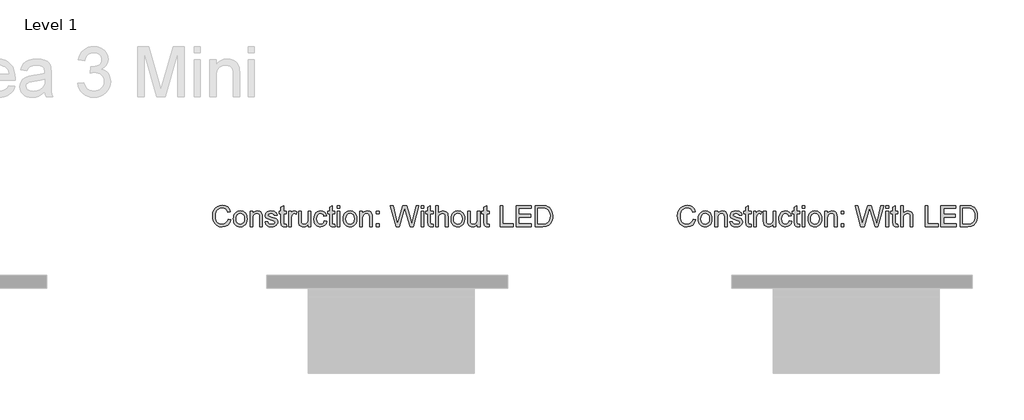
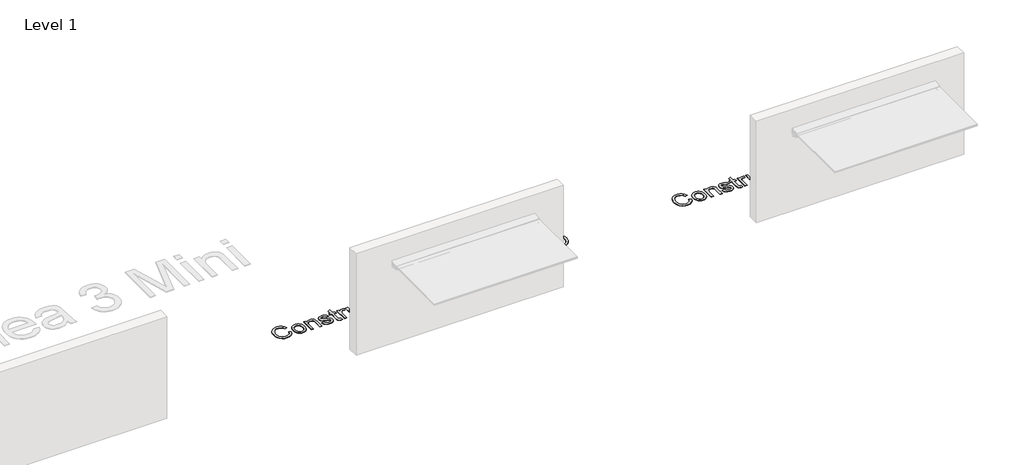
# One storey, part 6 of 6: 2 proxies.
"""IFC4 building model written with IfcOpenShell, lengths in millimetres."""

import ifcopenshell
import ifcopenshell.guid

model = None  # the IFC model being written
_history = None  # IfcOwnerHistory: only IFC2X3 demands one
_inside = {}  # id of a spatial element -> (the spatial element, [elements in it])
_under = {}  # id of a project, library or spatial element -> (it, [spatial elements below it])
_declared = {}  # id of a project -> (the project, [libraries it declares])
_typed = {}  # id of a type object -> (the type object, [elements of that type])
_made_of = {}  # id of a material, layer set ... -> (it, [elements and type objects made of it])


def new_model(schema):
    """Start an empty IFC model of exactly this schema.

    Asked for "IFC4X3", IfcOpenShell would pick the latest addendum, in which some entities
    have other attributes; the version numbers below select the first issue.
    IFC2X3 requires an IfcOwnerHistory on every rooted entity: one is made here for all.
    """
    global model, _history
    if schema == "IFC4X3":
        model = ifcopenshell.file(schema_version=(4, 3, 0, 0))
    else:
        model = ifcopenshell.file(schema=schema)
    _inside.clear()
    _under.clear()
    _declared.clear()
    _typed.clear()
    _made_of.clear()
    _history = None
    if model.schema == "IFC2X3":
        org = make("IfcOrganization", Name="unknown")
        user = make(
            "IfcPersonAndOrganization",
            ThePerson=make("IfcPerson", FamilyName="unknown"),
            TheOrganization=org,
        )
        app = make(
            "IfcApplication",
            ApplicationDeveloper=org,
            Version="unknown",
            ApplicationFullName="unknown",
            ApplicationIdentifier="unknown",
        )
        _history = make(
            "IfcOwnerHistory",
            OwningUser=user,
            OwningApplication=app,
            ChangeAction="ADDED",
            CreationDate=0,
        )
    return model


def make(cls, **values):
    """One entity of the class cls with the attributes given. An attribute that is None is left unset."""
    return model.create_entity(
        cls, **{name: value for name, value in values.items() if value is not None}
    )


def rooted(cls, **values):
    """An entity with a GlobalId (a new one), such as an element, a storey or a relation."""
    return make(cls, GlobalId=ifcopenshell.guid.new(), OwnerHistory=_history, **values)


def si_unit(unit_type, name, prefix=None):
    """IfcSIUnit, for example si_unit("LENGTHUNIT", "METRE", prefix="MILLI")."""
    return make("IfcSIUnit", UnitType=unit_type, Prefix=prefix, Name=name)


def assignment(units):
    """IfcUnitAssignment: the units of a project."""
    return None if units is None else make("IfcUnitAssignment", Units=units)


def point(xyz):
    """IfcCartesianPoint."""
    return None if xyz is None else make("IfcCartesianPoint", Coordinates=xyz)


def direction(xyz):
    """IfcDirection."""
    return None if xyz is None else make("IfcDirection", DirectionRatios=xyz)


def frame(location, z_axis=None, x_axis=None):
    """IfcAxis2Placement3D, a coordinate frame: its origin and axes. An axis left out is left unset."""
    return make(
        "IfcAxis2Placement3D",
        Location=point(location),
        Axis=direction(z_axis),
        RefDirection=direction(x_axis),
    )


def origin():
    """The frame at (0, 0, 0) with its axes left unset."""
    return frame((0.0, 0.0, 0.0))


def origin_with_axes():
    """The frame at (0, 0, 0) with the z axis (0, 0, 1) and the x axis (1, 0, 0) written out."""
    return frame((0.0, 0.0, 0.0), z_axis=(0.0, 0.0, 1.0), x_axis=(1.0, 0.0, 0.0))


def place(relative_to, where):
    """IfcLocalPlacement: puts the frame where relative to a parent placement (None: the world)."""
    return make(
        "IfcLocalPlacement", PlacementRelTo=relative_to, RelativePlacement=where
    )


def context(
    kind, dimensions, precision=None, world=None, true_north=None, identifier=None
):
    """IfcGeometricRepresentationContext, for example the 3D "Model" context."""
    return make(
        "IfcGeometricRepresentationContext",
        ContextIdentifier=identifier,
        ContextType=kind,
        CoordinateSpaceDimension=dimensions,
        Precision=precision,
        WorldCoordinateSystem=world,
        TrueNorth=true_north,
    )


def project(units=None, contexts=None):
    """IfcProject with its units and contexts."""
    return rooted(
        "IfcProject",
        Name="project",
        RepresentationContexts=contexts,
        UnitsInContext=assignment(units),
    )


def spatial(cls, under=None, at=None, **own):
    """A site, building, storey or space (cls), placed at a placement, below another one or the project."""
    s = rooted(cls, ObjectPlacement=at, **own)
    if under is not None:
        _under.setdefault(under.id(), (under, []))[1].append(s)
    return s


def polyline(points):
    """IfcPolyline through the points."""
    return make("IfcPolyline", Points=[point(p) for p in points])


def outline(outer, holes=None, kind="AREA"):
    """IfcArbitraryClosedProfileDef: a profile drawn as a closed curve; with holes, ...WithVoids."""
    if holes is None:
        return make("IfcArbitraryClosedProfileDef", ProfileType=kind, OuterCurve=outer)
    return make(
        "IfcArbitraryProfileDefWithVoids",
        ProfileType=kind,
        OuterCurve=outer,
        InnerCurves=holes,
    )


def extrude(swept, where, along, depth):
    """IfcExtrudedAreaSolid: the profile swept, set in the frame where, extruded along a direction by depth."""
    return make(
        "IfcExtrudedAreaSolid",
        SweptArea=swept,
        Position=where,
        ExtrudedDirection=direction(along),
        Depth=depth,
    )


def shape(context_of_items, identifier, shape_type, items):
    """IfcShapeRepresentation: the items that make up one representation, for example the "Body"."""
    return make(
        "IfcShapeRepresentation",
        ContextOfItems=context_of_items,
        RepresentationIdentifier=identifier,
        RepresentationType=shape_type,
        Items=items,
    )


def made_of(thing, what):
    """Note that an element or type object is made of a material, layer set ...; save() writes the relation."""
    if what is not None:
        _made_of.setdefault(what.id(), (what, []))[1].append(thing)
    return thing


def element(
    cls,
    number,
    at=None,
    inside=None,
    cuts=None,
    type_object=None,
    material=None,
    context=None,
    identifier="Body",
    shape_type=None,
    held_by="IfcProductDefinitionShape",
    body=None,
    shapes=None,
    **own,
):
    """One element of the class cls, such as IfcWall. Its Tag is "e" and its number.

    at: its placement. inside: the storey or other place that contains it. cuts: it is an
    opening in that element (IfcRelVoidsElement). A single representation is given by context,
    identifier, shape_type and body (its items); several are given by shapes. held_by: the class
    of the entity that holds the representations. save() writes the other relations.
    """
    e = rooted(cls, Tag="e%d" % number, ObjectPlacement=at, **own)
    if body is not None:
        shapes = [shape(context, identifier, shape_type, body)]
    if shapes is not None:
        e.Representation = make(held_by, Representations=shapes)
    if inside is not None:
        _inside.setdefault(inside.id(), (inside, []))[1].append(e)
    if cuts is not None:
        rooted(
            "IfcRelVoidsElement", RelatingBuildingElement=cuts, RelatedOpeningElement=e
        )
    if type_object is not None:
        _typed.setdefault(type_object.id(), (type_object, []))[1].append(e)
    return made_of(e, material)


def aggregate(whole, parts):
    """IfcRelAggregates: a whole, such as a stair, and the parts it consists of."""
    return rooted("IfcRelAggregates", RelatingObject=whole, RelatedObjects=parts)


def save(model, path):
    """Write the relations noted so far, then the file.

    IfcRelAggregates (storeys below a building ...), IfcRelContainedInSpatialStructure (elements
    in a storey), IfcRelDefinesByType, IfcRelAssociatesMaterial and IfcRelDeclares: one each for
    every whole, place, type object, material and project.
    """
    for whole, parts in _under.values():
        aggregate(whole, parts)
    for where, things in _inside.values():
        rooted(
            "IfcRelContainedInSpatialStructure",
            RelatedElements=things,
            RelatingStructure=where,
        )
    for kind, things in _typed.values():
        rooted("IfcRelDefinesByType", RelatedObjects=things, RelatingType=kind)
    for what, things in _made_of.values():
        rooted("IfcRelAssociatesMaterial", RelatedObjects=things, RelatingMaterial=what)
    for by, libraries in _declared.values():
        rooted("IfcRelDeclares", RelatingContext=by, RelatedDefinitions=libraries)
    model.write(path)


model = new_model("IFC4")

# Units and contexts
model_context = context("Model", 3, world=origin())
ifc_project = project(units=[si_unit("LENGTHUNIT", "METRE", prefix="MILLI")], contexts=[model_context])

# Site, building, storey
site = spatial("IfcSite", under=ifc_project)
building = spatial("IfcBuilding", under=site)
storey = spatial("IfcBuildingStorey", under=building, Name="Level 1", Elevation=0.0)

# Proxies
placement = place(None, origin())
element("IfcBuildingElementProxy", 1, Name="600mm Arial 2", ObjectType="600mm Arial 2", at=placement, inside=storey, context=model_context, shape_type="SweptSolid", body=[
    extrude(outline(polyline([(15617.5005788, 1388.7827589), (15648.8931757, 1380.689355), (15634.4078221, 1344.1080891), (15611.6757805, 1317.382995), (15581.8160252, 1301.0352389), (15545.9475307, 1295.5859868), (15509.5348774, 1299.7093308), (15480.6178197, 1312.0793629), (15458.4529295, 1332.2668874), (15442.2967786, 1359.8427086), (15432.4329426, 1392.2623095), (15429.1449972, 1426.9811728), (15432.8621382, 1463.6007597), (15444.0135612, 1495.2232829), (15462.0167864, 1520.844731), (15486.2893338, 1539.4610928), (15515.0761, 1550.7964568), (15546.621981, 1554.5749114), (15581.0419402, 1549.6851466), (15609.4991454, 1535.015852), (15631.1045484, 1511.4714043), (15644.9691011, 1479.9561801), (15613.5765042, 1472.4759128), (15602.6933285, 1495.3689028), (15587.8247645, 1511.0728655), (15568.7868713, 1520.1549522), (15545.3957077, 1523.1823145), (15518.4330232, 1519.8253913), (15496.2834614, 1509.7546217), (15479.4758527, 1494.0276664), (15468.5390276, 1473.7021861), (15462.5379525, 1450.7248899), (15460.5375942, 1427.0424864), (15462.9058345, 1398.0411225), (15470.0105555, 1372.9638331), (15482.1200046, 1352.7686444), (15499.5024288, 1338.4135824), (15520.341411, 1329.8373334), (15542.8205338, 1326.9785837), (15569.0244617, 1330.8720015), (15590.859791, 1342.5522549), (15607.3455029, 1361.8967164), (15617.5005788, 1388.7827589)])), origin_with_axes(), (0.0, 0.0, 1.0), 5.0),
    extrude(outline(polyline([(15680.2857726, 1391.7258149), (15681.9833947, 1415.6113198), (15687.0762611, 1436.1935511), (15695.5643717, 1453.4725085), (15707.4477266, 1467.4481922), (15732.6169864, 1482.7612803), (15762.7526532, 1487.865643), (15780.0718478, 1486.3117247), (15795.7317412, 1481.6499701), (15809.7323336, 1473.880379), (15822.0736249, 1463.0029515), (15832.1463106, 1449.3855695), (15839.3410861, 1433.396115), (15843.6579514, 1415.0345882), (15845.0969065, 1394.3009889), (15842.5523893, 1362.5864952), (15834.9188379, 1338.4442393), (15822.4185143, 1320.364372), (15805.2736805, 1306.8370445), (15784.9098792, 1298.3987512), (15762.7526532, 1295.5859868), (15745.1805398, 1297.1341569), (15729.3750264, 1301.7786671), (15715.3361129, 1309.5195174), (15703.0637995, 1320.3567078), (15693.0984127, 1334.1062974), (15685.9802793, 1350.5843451), (15681.7093993, 1369.7908509), (15680.2857726, 1391.7258149)]), holes=[polyline([(15711.6783695, 1391.7871286), (15715.3112042, 1363.3759086), (15726.2097084, 1343.1347347), (15742.611114, 1331.0176215), (15762.7526532, 1326.9785837), (15782.8022219, 1331.0406141), (15799.1729707, 1343.2267052), (15810.0714748, 1363.7361264), (15813.7043095, 1392.7681472), (15810.0484822, 1420.3516326), (15799.0810002, 1440.3168951), (15782.6872588, 1452.4340083), (15762.7526532, 1456.473046), (15742.611114, 1452.4493367), (15726.2097084, 1440.3782087), (15715.3112042, 1420.1830201), (15711.6783695, 1391.7871286)])]), origin_with_axes(), (0.0, 0.0, 1.0), 5.0),
    extrude(outline(polyline([(15880.413578, 1299.5100614), (15880.413578, 1483.9415683), (15911.8061749, 1483.9415683), (15911.8061749, 1458.1898287), (15922.7123432, 1471.1729974), (15935.8104751, 1480.4466894), (15951.1005705, 1486.0109046), (15968.5826295, 1487.865643), (15984.0566659, 1486.3711224), (15998.227787, 1481.8875605), (16010.0459961, 1474.9744447), (16018.4612967, 1466.1912621), (16027.8729444, 1443.1066669), (16029.5284134, 1412.7564023), (16029.5284134, 1299.5100614), (15998.1358165, 1299.5100614), (15998.1358165, 1408.5257593), (15994.5183102, 1436.30085), (15989.5135822, 1444.5705307), (15981.7344108, 1450.9854729), (15960.1826573, 1456.473046), (15941.7962217, 1453.3920343), (15926.1229159, 1444.1489992), (15915.3853602, 1426.291394), (15911.8061749, 1397.3666721), (15911.8061749, 1299.5100614), (15880.413578, 1299.5100614)])), origin_with_axes(), (0.0, 0.0, 1.0), 5.0),
    extrude(outline(polyline([(16060.9210103, 1354.447106), (16092.3136072, 1358.3711807), (16097.2646857, 1344.9434878), (16106.844946, 1335.0719876), (16121.1157018, 1329.0019347), (16140.1382666, 1326.9785837), (16158.9309052, 1328.8333221), (16172.1440002, 1334.3975373), (16179.9614926, 1342.4602844), (16182.5673234, 1351.8106184), (16179.9461642, 1359.8120518), (16172.0826865, 1365.9127616), (16139.7703846, 1374.8645568), (16092.4975482, 1390.2236301), (16080.5337192, 1397.9414878), (16071.8654997, 1408.1578773), (16066.6001886, 1420.2213411), (16064.8450849, 1433.4804213), (16070.4859422, 1456.8715849), (16085.8756723, 1474.7445185), (16105.8332705, 1484.0335388), (16132.8419404, 1487.865643), (16153.2747195, 1486.3251371), (16171.0403542, 1481.7036195), (16185.3264383, 1474.4532786), (16195.3205659, 1465.0263024), (16201.9424418, 1452.7252482), (16206.1117711, 1436.852673), (16174.7191741, 1432.9285983), (16170.7567785, 1442.8077628), (16162.9162935, 1450.249709), (16151.121077, 1454.9172118), (16135.294487, 1456.473046), (16117.2682692, 1454.9861896), (16105.2507907, 1450.5256204), (16098.4909591, 1444.0876855), (16096.2376818, 1436.668732), (16099.9778155, 1427.5329957), (16111.6887256, 1420.6045515), (16138.7280523, 1413.9213619), (16184.8052722, 1399.1447685), (16196.9760348, 1392.0783685), (16206.2037416, 1382.4061377), (16212.0208756, 1370.0974193), (16213.9599203, 1355.1215564), (16211.6836504, 1339.6398557), (16204.8548409, 1325.0778601), (16193.7340748, 1312.5775365), (16178.5819351, 1303.2808519), (16160.2798058, 1297.5097031), (16139.7090709, 1295.5859868), (16108.0558909, 1299.2954636), (16084.9559673, 1310.423894), (16069.5355804, 1328.8486505), (16060.9210103, 1354.447106)])), origin_with_axes(), (0.0, 0.0, 1.0), 5.0),
    extrude(outline(polyline([(16315.9858603, 1325.6909968), (16319.9099349, 1298.5903564), (16296.4268009, 1295.5859868), (16281.3589675, 1296.8889022), (16270.1232382, 1300.7976484), (16257.0021137, 1314.4705959), (16253.2006664, 1350.0938358), (16253.2006664, 1452.5489714), (16229.6562188, 1452.5489714), (16229.6562188, 1483.9415683), (16253.2006664, 1483.9415683), (16253.2006664, 1528.7618581), (16284.5932634, 1547.2172715), (16284.5932634, 1483.9415683), (16315.9858603, 1483.9415683), (16315.9858603, 1452.5489714), (16284.5932634, 1452.5489714), (16284.5932634, 1351.0135408), (16286.2487323, 1334.826733), (16291.6136781, 1329.0939052), (16302.3129128, 1326.9785837), (16315.9858603, 1325.6909968)])), origin_with_axes(), (0.0, 0.0, 1.0), 5.0),
    extrude(outline(polyline([(16347.3784572, 1299.5100614), (16347.3784572, 1483.9415683), (16374.8469795, 1483.9415683), (16374.8469795, 1456.656987), (16384.9943912, 1472.4759128), (16394.3447253, 1481.79559), (16413.9650983, 1487.865643), (16429.6000831, 1485.4437532), (16445.4803226, 1478.1780838), (16434.9956857, 1450.0351111), (16412.922766, 1456.473046), (16403.5494393, 1454.924876), (16395.1724598, 1450.2803658), (16383.8600884, 1433.1125393), (16378.7710541, 1396.4469672), (16378.7710541, 1299.5100614), (16347.3784572, 1299.5100614)])), origin_with_axes(), (0.0, 0.0, 1.0), 5.0),
    extrude(outline(polyline([(16582.8229341, 1299.5100614), (16582.8229341, 1331.2092267), (16571.4645775, 1315.6240592), (16558.2361541, 1304.4917968), (16543.1376639, 1297.8124393), (16526.1691069, 1295.5859868), (16510.8790114, 1297.1494853), (16496.6465768, 1301.8399807), (16484.7057403, 1308.8910523), (16476.2904397, 1317.5362792), (16466.9401056, 1340.6515312), (16465.1006957, 1369.8368362), (16465.1006957, 1483.9415683), (16496.4932926, 1483.9415683), (16496.4932926, 1384.6134296), (16498.3940162, 1352.6076961), (16502.9695485, 1341.931454), (16510.8100336, 1333.8150575), (16521.3943051, 1328.6877022), (16534.2011971, 1326.9785837), (16547.743853, 1328.7260232), (16560.4127893, 1333.9683416), (16570.8591051, 1342.2226939), (16577.7338999, 1353.0062349), (16581.5506756, 1367.7751642), (16582.8229341, 1387.9856813), (16582.8229341, 1483.9415683), (16614.215531, 1483.9415683), (16614.215531, 1299.5100614), (16582.8229341, 1299.5100614)])), origin_with_axes(), (0.0, 0.0, 1.0), 5.0),
    extrude(outline(polyline([(16775.1025903, 1366.2193299), (16806.4951872, 1362.2952553), (16797.7426614, 1334.3745447), (16781.2952705, 1313.2749794), (16758.7011847, 1300.008235), (16731.5085738, 1295.5859868), (16713.9019715, 1297.1284087), (16698.1156186, 1301.7556744), (16684.1495151, 1309.467784), (16672.0036611, 1320.2647373), (16662.172398, 1333.943433), (16655.1500672, 1350.3007694), (16649.5322026, 1391.0513646), (16651.9310998, 1418.9874036), (16659.1277913, 1443.1986374), (16671.2372403, 1462.7500326), (16688.3744099, 1476.7065558), (16708.8761669, 1485.0758712), (16731.0793782, 1487.865643), (16757.6052029, 1484.0335388), (16778.8120671, 1472.5372265), (16794.0255204, 1453.9898426), (16802.5711126, 1429.0045237), (16771.1785157, 1425.0804491), (16765.4840089, 1438.7763892), (16756.61652, 1448.59424), (16745.0665582, 1454.5033445), (16731.3246328, 1456.473046), (16711.0374737, 1452.5949567), (16694.9349722, 1440.9606886), (16684.4273427, 1420.9417767), (16680.9247995, 1391.9097559), (16684.3507006, 1362.4868605), (16694.6284038, 1342.3989707), (16710.4396654, 1330.8336805), (16730.4662415, 1326.9785837), (16746.7220272, 1329.3851451), (16760.0500853, 1336.6048293), (16769.7453087, 1348.8215772), (16775.1025903, 1366.2193299)])), origin_with_axes(), (0.0, 0.0, 1.0), 5.0),
    extrude(outline(polyline([(16900.672978, 1325.6909968), (16904.5970526, 1298.5903564), (16881.1139185, 1295.5859868), (16866.0460852, 1296.8889022), (16854.8103559, 1300.7976484), (16841.6892314, 1314.4705959), (16837.8877841, 1350.0938358), (16837.8877841, 1452.5489714), (16814.3433364, 1452.5489714), (16814.3433364, 1483.9415683), (16837.8877841, 1483.9415683), (16837.8877841, 1528.7618581), (16869.280381, 1547.2172715), (16869.280381, 1483.9415683), (16900.672978, 1483.9415683), (16900.672978, 1452.5489714), (16869.280381, 1452.5489714), (16869.280381, 1351.0135408), (16870.93585, 1334.826733), (16876.3007958, 1329.0939052), (16887.0000305, 1326.9785837), (16900.672978, 1325.6909968)])), origin_with_axes(), (0.0, 0.0, 1.0), 5.0),
    extrude(outline(polyline([(16932.0655749, 1519.2582399), (16932.0655749, 1550.6508368), (16963.4581718, 1550.6508368), (16963.4581718, 1519.2582399), (16932.0655749, 1519.2582399)])), origin_with_axes(), (0.0, 0.0, 1.0), 5.0),
    extrude(outline(polyline([(16932.0655749, 1299.5100614), (16932.0655749, 1483.9415683), (16963.4581718, 1483.9415683), (16963.4581718, 1299.5100614), (16932.0655749, 1299.5100614)])), origin_with_axes(), (0.0, 0.0, 1.0), 5.0),
    extrude(outline(polyline([(17002.698918, 1391.7258149), (17004.3965401, 1415.6113198), (17009.4894064, 1436.1935511), (17017.9775171, 1453.4725085), (17029.8608719, 1467.4481922), (17055.0301318, 1482.7612803), (17085.1657985, 1487.865643), (17102.4849931, 1486.3117247), (17118.1448866, 1481.6499701), (17132.145479, 1473.880379), (17144.4867703, 1463.0029515), (17154.5594559, 1449.3855695), (17161.7542314, 1433.396115), (17166.0710967, 1415.0345882), (17167.5100518, 1394.3009889), (17164.9655347, 1362.5864952), (17157.3319833, 1338.4442393), (17144.8316596, 1320.364372), (17127.6868258, 1306.8370445), (17107.3230245, 1298.3987512), (17085.1657985, 1295.5859868), (17067.5936851, 1297.1341569), (17051.7881717, 1301.7786671), (17037.7492583, 1309.5195174), (17025.4769448, 1320.3567078), (17015.5115581, 1334.1062974), (17008.3934247, 1350.5843451), (17004.1225446, 1369.7908509), (17002.698918, 1391.7258149)]), holes=[polyline([(17034.0915149, 1391.7871286), (17037.7243496, 1363.3759086), (17048.6228537, 1343.1347347), (17065.0242593, 1331.0176215), (17085.1657985, 1326.9785837), (17105.2153673, 1331.0406141), (17121.5861161, 1343.2267052), (17132.4846202, 1363.7361264), (17136.1174549, 1392.7681472), (17132.4616275, 1420.3516326), (17121.4941456, 1440.3168951), (17105.1004042, 1452.4340083), (17085.1657985, 1456.473046), (17065.0242593, 1452.4493367), (17048.6228537, 1440.3782087), (17037.7243496, 1420.1830201), (17034.0915149, 1391.7871286)])]), origin_with_axes(), (0.0, 0.0, 1.0), 5.0),
    extrude(outline(polyline([(17202.8267233, 1299.5100614), (17202.8267233, 1483.9415683), (17234.2193203, 1483.9415683), (17234.2193203, 1458.1898287), (17245.1254886, 1471.1729974), (17258.2236204, 1480.4466894), (17273.5137159, 1486.0109046), (17290.9957748, 1487.865643), (17306.4698113, 1486.3711224), (17320.6409323, 1481.8875605), (17332.4591414, 1474.9744447), (17340.874442, 1466.1912621), (17350.2860897, 1443.1066669), (17351.9415587, 1412.7564023), (17351.9415587, 1299.5100614), (17320.5489618, 1299.5100614), (17320.5489618, 1408.5257593), (17316.9314555, 1436.30085), (17311.9267275, 1444.5705307), (17304.1475562, 1450.9854729), (17282.5958026, 1456.473046), (17264.2093671, 1453.3920343), (17248.5360612, 1444.1489992), (17237.7985055, 1426.291394), (17234.2193203, 1397.3666721), (17234.2193203, 1299.5100614), (17202.8267233, 1299.5100614)])), origin_with_axes(), (0.0, 0.0, 1.0), 5.0),
    extrude(outline(polyline([(17402.9545287, 1299.5100614), (17402.9545287, 1330.9026584), (17434.3471256, 1330.9026584), (17434.3471256, 1299.5100614), (17402.9545287, 1299.5100614)])), origin_with_axes(), (0.0, 0.0, 1.0), 5.0),
    extrude(outline(polyline([(17402.9545287, 1452.5489714), (17402.9545287, 1483.9415683), (17434.3471256, 1483.9415683), (17434.3471256, 1452.5489714), (17402.9545287, 1452.5489714)])), origin_with_axes(), (0.0, 0.0, 1.0), 5.0),
    extrude(outline(polyline([(17640.1771019, 1299.5100614), (17571.6897372, 1550.6508368), (17604.0633527, 1550.6508368), (17643.7946082, 1385.5944483), (17656.0573414, 1334.642792), (17669.1784659, 1379.7083364), (17718.9651626, 1550.6508368), (17765.6248623, 1550.6508368), (17801.7999251, 1426.7359181), (17817.2969542, 1380.7506687), (17828.7166245, 1334.642792), (17840.6114756, 1384.1229203), (17880.6492994, 1550.6508368), (17913.0842287, 1550.6508368), (17844.6581776, 1299.5100614), (17811.0582887, 1299.5100614), (17750.7869551, 1493.2612456), (17742.3869829, 1520.3005722), (17732.9446784, 1487.7430156), (17678.0689474, 1299.5100614), (17640.1771019, 1299.5100614)])), origin_with_axes(), (0.0, 0.0, 1.0), 5.0),
    extrude(outline(polyline([(17940.552751, 1519.2582399), (17940.552751, 1550.6508368), (17971.9453479, 1550.6508368), (17971.9453479, 1519.2582399), (17940.552751, 1519.2582399)])), origin_with_axes(), (0.0, 0.0, 1.0), 5.0),
    extrude(outline(polyline([(17940.552751, 1299.5100614), (17940.552751, 1483.9415683), (17971.9453479, 1483.9415683), (17971.9453479, 1299.5100614), (17940.552751, 1299.5100614)])), origin_with_axes(), (0.0, 0.0, 1.0), 5.0),
    extrude(outline(polyline([(18085.7435118, 1325.6909968), (18089.6675864, 1298.5903564), (18066.1844523, 1295.5859868), (18051.116619, 1296.8889022), (18039.8808897, 1300.7976484), (18026.7597652, 1314.4705959), (18022.9583179, 1350.0938358), (18022.9583179, 1452.5489714), (17999.4138702, 1452.5489714), (17999.4138702, 1483.9415683), (18022.9583179, 1483.9415683), (18022.9583179, 1528.7618581), (18054.3509148, 1547.2172715), (18054.3509148, 1483.9415683), (18085.7435118, 1483.9415683), (18085.7435118, 1452.5489714), (18054.3509148, 1452.5489714), (18054.3509148, 1351.0135408), (18056.0063838, 1334.826733), (18061.3713296, 1329.0939052), (18072.0705643, 1326.9785837), (18085.7435118, 1325.6909968)])), origin_with_axes(), (0.0, 0.0, 1.0), 5.0),
    extrude(outline(polyline([(18117.1361087, 1299.5100614), (18117.1361087, 1550.6508368), (18148.5287056, 1550.6508368), (18148.5287056, 1458.312456), (18160.0595069, 1471.2419753), (18173.0081867, 1480.4773462), (18187.374745, 1486.0185688), (18203.1591819, 1487.865643), (18222.120433, 1485.8499562), (18238.4145398, 1479.8028959), (18251.2444243, 1470.199643), (18259.8130091, 1457.5153784), (18264.6414603, 1440.0869688), (18266.2509441, 1416.2512812), (18266.2509441, 1299.5100614), (18234.8583471, 1299.5100614), (18234.8583471, 1413.0016569), (18232.3598152, 1432.6526868), (18224.8642196, 1446.1110365), (18212.7854274, 1453.8825437), (18196.537306, 1456.473046), (18183.2705615, 1454.7256066), (18170.8162231, 1449.4832881), (18160.5001989, 1441.2519285), (18153.6483967, 1430.5373654), (18149.8086284, 1416.2972665), (18148.5287056, 1397.4892995), (18148.5287056, 1299.5100614), (18117.1361087, 1299.5100614)])), origin_with_axes(), (0.0, 0.0, 1.0), 5.0),
    extrude(outline(polyline([(18301.5676156, 1391.7258149), (18303.2652377, 1415.6113198), (18308.3581041, 1436.1935511), (18316.8462147, 1453.4725085), (18328.7295696, 1467.4481922), (18353.8988294, 1482.7612803), (18384.0344962, 1487.865643), (18401.3536907, 1486.3117247), (18417.0135842, 1481.6499701), (18431.0141766, 1473.880379), (18443.3554679, 1463.0029515), (18453.4281536, 1449.3855695), (18460.622929, 1433.396115), (18464.9397943, 1415.0345882), (18466.3787494, 1394.3009889), (18463.8342323, 1362.5864952), (18456.2006809, 1338.4442393), (18443.7003573, 1320.364372), (18426.5555235, 1306.8370445), (18406.1917222, 1298.3987512), (18384.0344962, 1295.5859868), (18366.4623827, 1297.1341569), (18350.6568693, 1301.7786671), (18336.6179559, 1309.5195174), (18324.3456425, 1320.3567078), (18314.3802557, 1334.1062974), (18307.2621223, 1350.5843451), (18302.9912423, 1369.7908509), (18301.5676156, 1391.7258149)]), holes=[polyline([(18332.9602125, 1391.7871286), (18336.5930472, 1363.3759086), (18347.4915513, 1343.1347347), (18363.8929569, 1331.0176215), (18384.0344962, 1326.9785837), (18404.0840649, 1331.0406141), (18420.4548137, 1343.2267052), (18431.3533178, 1363.7361264), (18434.9861525, 1392.7681472), (18431.3303252, 1420.3516326), (18420.3628432, 1440.3168951), (18403.9691018, 1452.4340083), (18384.0344962, 1456.473046), (18363.8929569, 1452.4493367), (18347.4915513, 1440.3782087), (18336.5930472, 1420.1830201), (18332.9602125, 1391.7871286)])]), origin_with_axes(), (0.0, 0.0, 1.0), 5.0),
    extrude(outline(polyline([(18619.4176594, 1299.5100614), (18619.4176594, 1331.2092267), (18608.0593028, 1315.6240592), (18594.8308794, 1304.4917968), (18579.7323892, 1297.8124393), (18562.7638322, 1295.5859868), (18547.4737367, 1297.1494853), (18533.2413021, 1301.8399807), (18521.3004656, 1308.8910523), (18512.885165, 1317.5362792), (18503.5348309, 1340.6515312), (18501.695421, 1369.8368362), (18501.695421, 1483.9415683), (18533.0880179, 1483.9415683), (18533.0880179, 1384.6134296), (18534.9887415, 1352.6076961), (18539.5642738, 1341.931454), (18547.4047589, 1333.8150575), (18557.9890304, 1328.6877022), (18570.7959224, 1326.9785837), (18584.3385783, 1328.7260232), (18597.0075145, 1333.9683416), (18607.4538304, 1342.2226939), (18614.3286252, 1353.0062349), (18618.1454009, 1367.7751642), (18619.4176594, 1387.9856813), (18619.4176594, 1483.9415683), (18650.8102563, 1483.9415683), (18650.8102563, 1299.5100614), (18619.4176594, 1299.5100614)])), origin_with_axes(), (0.0, 0.0, 1.0), 5.0),
    extrude(outline(polyline([(18760.6843456, 1325.6909968), (18764.6084202, 1298.5903564), (18741.1252862, 1295.5859868), (18726.0574528, 1296.8889022), (18714.8217235, 1300.7976484), (18701.700599, 1314.4705959), (18697.8991517, 1350.0938358), (18697.8991517, 1452.5489714), (18674.354704, 1452.5489714), (18674.354704, 1483.9415683), (18697.8991517, 1483.9415683), (18697.8991517, 1528.7618581), (18729.2917486, 1547.2172715), (18729.2917486, 1483.9415683), (18760.6843456, 1483.9415683), (18760.6843456, 1452.5489714), (18729.2917486, 1452.5489714), (18729.2917486, 1351.0135408), (18730.9472176, 1334.826733), (18736.3121634, 1329.0939052), (18747.0113981, 1326.9785837), (18760.6843456, 1325.6909968)])), origin_with_axes(), (0.0, 0.0, 1.0), 5.0),
    extrude(outline(polyline([(18894.1028825, 1299.5100614), (18894.1028825, 1550.6508368), (18925.4954794, 1550.6508368), (18925.4954794, 1330.9026584), (19051.0658671, 1330.9026584), (19051.0658671, 1299.5100614), (18894.1028825, 1299.5100614)])), origin_with_axes(), (0.0, 0.0, 1.0), 5.0),
    extrude(outline(polyline([(19086.3825386, 1299.5100614), (19086.3825386, 1550.6508368), (19266.8899709, 1550.6508368), (19266.8899709, 1519.2582399), (19117.7751356, 1519.2582399), (19117.7751356, 1444.7008222), (19259.0418217, 1444.7008222), (19259.0418217, 1413.3082253), (19117.7751356, 1413.3082253), (19117.7751356, 1330.9026584), (19270.8140455, 1330.9026584), (19270.8140455, 1299.5100614), (19086.3825386, 1299.5100614)])), origin_with_axes(), (0.0, 0.0, 1.0), 5.0),
    extrude(outline(polyline([(19317.9029409, 1299.5100614), (19317.9029409, 1550.6508368), (19404.5391508, 1550.6508368), (19449.3594405, 1547.0333305), (19469.3783524, 1540.058901), (19486.2702674, 1529.0684264), (19503.6373632, 1509.9385627), (19516.0073953, 1486.1488603), (19523.4110205, 1458.1591718), (19525.8788955, 1426.4293498), (19524.2080981, 1399.4743294), (19519.195706, 1375.7536049), (19511.5621546, 1355.5584162), (19502.0278795, 1339.1800032), (19479.0965685, 1316.4019764), (19449.083529, 1303.802018), (19408.7084801, 1299.5100614), (19317.9029409, 1299.5100614)]), holes=[polyline([(19349.2955379, 1330.9026584), (19404.8457191, 1330.9026584), (19445.2514249, 1335.4398696), (19468.550618, 1348.2544258), (19479.4567863, 1361.843067), (19487.6498249, 1379.4324249), (19492.7771802, 1401.0991416), (19494.4862986, 1426.9198591), (19491.1370396, 1461.1328846), (19481.0892626, 1486.394115), (19466.2436913, 1503.7458824), (19448.5010492, 1514.2305193), (19430.4441746, 1518.0013097), (19403.9873278, 1519.2582399), (19349.2955379, 1519.2582399), (19349.2955379, 1330.9026584)])]), origin_with_axes(), (0.0, 0.0, 1.0), 5.0),
])
element("IfcBuildingElementProxy", 2, Name="600mm Arial 2", ObjectType="600mm Arial 2", at=placement, inside=storey, context=model_context, shape_type="SweptSolid", body=[
    extrude(outline(polyline([(21217.5005788, 1388.7827589), (21248.8931757, 1380.689355), (21234.4078221, 1344.1080891), (21211.6757805, 1317.382995), (21181.8160252, 1301.0352389), (21145.9475307, 1295.5859868), (21109.5348774, 1299.7093308), (21080.6178197, 1312.0793629), (21058.4529295, 1332.2668874), (21042.2967786, 1359.8427086), (21032.4329426, 1392.2623095), (21029.1449972, 1426.9811728), (21032.8621382, 1463.6007597), (21044.0135612, 1495.2232829), (21062.0167864, 1520.844731), (21086.2893338, 1539.4610928), (21115.0761, 1550.7964568), (21146.621981, 1554.5749114), (21181.0419402, 1549.6851466), (21209.4991454, 1535.015852), (21231.1045484, 1511.4714043), (21244.9691011, 1479.9561801), (21213.5765042, 1472.4759128), (21202.6933285, 1495.3689028), (21187.8247645, 1511.0728655), (21168.7868713, 1520.1549522), (21145.3957077, 1523.1823145), (21118.4330232, 1519.8253913), (21096.2834614, 1509.7546217), (21079.4758527, 1494.0276664), (21068.5390276, 1473.7021861), (21062.5379525, 1450.7248899), (21060.5375942, 1427.0424864), (21062.9058345, 1398.0411225), (21070.0105555, 1372.9638331), (21082.1200046, 1352.7686444), (21099.5024288, 1338.4135824), (21120.341411, 1329.8373334), (21142.8205338, 1326.9785837), (21169.0244617, 1330.8720015), (21190.859791, 1342.5522549), (21207.3455029, 1361.8967164), (21217.5005788, 1388.7827589)])), origin_with_axes(), (0.0, 0.0, 1.0), 5.0),
    extrude(outline(polyline([(21280.2857726, 1391.7258149), (21281.9833947, 1415.6113198), (21287.0762611, 1436.1935511), (21295.5643717, 1453.4725085), (21307.4477266, 1467.4481922), (21332.6169864, 1482.7612803), (21362.7526532, 1487.865643), (21380.0718478, 1486.3117247), (21395.7317412, 1481.6499701), (21409.7323336, 1473.880379), (21422.0736249, 1463.0029515), (21432.1463106, 1449.3855695), (21439.3410861, 1433.396115), (21443.6579514, 1415.0345882), (21445.0969065, 1394.3009889), (21442.5523893, 1362.5864952), (21434.9188379, 1338.4442393), (21422.4185143, 1320.364372), (21405.2736805, 1306.8370445), (21384.9098792, 1298.3987512), (21362.7526532, 1295.5859868), (21345.1805398, 1297.1341569), (21329.3750264, 1301.7786671), (21315.3361129, 1309.5195174), (21303.0637995, 1320.3567078), (21293.0984127, 1334.1062974), (21285.9802793, 1350.5843451), (21281.7093993, 1369.7908509), (21280.2857726, 1391.7258149)]), holes=[polyline([(21311.6783695, 1391.7871286), (21315.3112042, 1363.3759086), (21326.2097084, 1343.1347347), (21342.611114, 1331.0176215), (21362.7526532, 1326.9785837), (21382.8022219, 1331.0406141), (21399.1729707, 1343.2267052), (21410.0714748, 1363.7361264), (21413.7043095, 1392.7681472), (21410.0484822, 1420.3516326), (21399.0810002, 1440.3168951), (21382.6872588, 1452.4340083), (21362.7526532, 1456.473046), (21342.611114, 1452.4493367), (21326.2097084, 1440.3782087), (21315.3112042, 1420.1830201), (21311.6783695, 1391.7871286)])]), origin_with_axes(), (0.0, 0.0, 1.0), 5.0),
    extrude(outline(polyline([(21480.413578, 1299.5100614), (21480.413578, 1483.9415683), (21511.8061749, 1483.9415683), (21511.8061749, 1458.1898287), (21522.7123432, 1471.1729974), (21535.8104751, 1480.4466894), (21551.1005705, 1486.0109046), (21568.5826295, 1487.865643), (21584.0566659, 1486.3711224), (21598.227787, 1481.8875605), (21610.0459961, 1474.9744447), (21618.4612967, 1466.1912621), (21627.8729444, 1443.1066669), (21629.5284134, 1412.7564023), (21629.5284134, 1299.5100614), (21598.1358165, 1299.5100614), (21598.1358165, 1408.5257593), (21594.5183102, 1436.30085), (21589.5135822, 1444.5705307), (21581.7344108, 1450.9854729), (21560.1826573, 1456.473046), (21541.7962217, 1453.3920343), (21526.1229159, 1444.1489992), (21515.3853602, 1426.291394), (21511.8061749, 1397.3666721), (21511.8061749, 1299.5100614), (21480.413578, 1299.5100614)])), origin_with_axes(), (0.0, 0.0, 1.0), 5.0),
    extrude(outline(polyline([(21660.9210103, 1354.447106), (21692.3136072, 1358.3711807), (21697.2646857, 1344.9434878), (21706.844946, 1335.0719876), (21721.1157018, 1329.0019347), (21740.1382666, 1326.9785837), (21758.9309052, 1328.8333221), (21772.1440002, 1334.3975373), (21779.9614926, 1342.4602844), (21782.5673234, 1351.8106184), (21779.9461642, 1359.8120518), (21772.0826865, 1365.9127616), (21739.7703846, 1374.8645568), (21692.4975482, 1390.2236301), (21680.5337192, 1397.9414878), (21671.8654997, 1408.1578773), (21666.6001886, 1420.2213411), (21664.8450849, 1433.4804213), (21670.4859422, 1456.8715849), (21685.8756723, 1474.7445185), (21705.8332705, 1484.0335388), (21732.8419404, 1487.865643), (21753.2747195, 1486.3251371), (21771.0403542, 1481.7036195), (21785.3264383, 1474.4532786), (21795.3205659, 1465.0263024), (21801.9424418, 1452.7252482), (21806.1117711, 1436.852673), (21774.7191741, 1432.9285983), (21770.7567785, 1442.8077628), (21762.9162935, 1450.249709), (21751.121077, 1454.9172118), (21735.294487, 1456.473046), (21717.2682692, 1454.9861896), (21705.2507907, 1450.5256204), (21698.4909591, 1444.0876855), (21696.2376818, 1436.668732), (21699.9778155, 1427.5329957), (21711.6887256, 1420.6045515), (21738.7280523, 1413.9213619), (21784.8052722, 1399.1447685), (21796.9760348, 1392.0783685), (21806.2037416, 1382.4061377), (21812.0208756, 1370.0974193), (21813.9599203, 1355.1215564), (21811.6836504, 1339.6398557), (21804.8548409, 1325.0778601), (21793.7340748, 1312.5775365), (21778.5819351, 1303.2808519), (21760.2798058, 1297.5097031), (21739.7090709, 1295.5859868), (21708.0558909, 1299.2954636), (21684.9559673, 1310.423894), (21669.5355804, 1328.8486505), (21660.9210103, 1354.447106)])), origin_with_axes(), (0.0, 0.0, 1.0), 5.0),
    extrude(outline(polyline([(21915.9858603, 1325.6909968), (21919.9099349, 1298.5903564), (21896.4268009, 1295.5859868), (21881.3589675, 1296.8889022), (21870.1232382, 1300.7976484), (21857.0021137, 1314.4705959), (21853.2006664, 1350.0938358), (21853.2006664, 1452.5489714), (21829.6562188, 1452.5489714), (21829.6562188, 1483.9415683), (21853.2006664, 1483.9415683), (21853.2006664, 1528.7618581), (21884.5932634, 1547.2172715), (21884.5932634, 1483.9415683), (21915.9858603, 1483.9415683), (21915.9858603, 1452.5489714), (21884.5932634, 1452.5489714), (21884.5932634, 1351.0135408), (21886.2487323, 1334.826733), (21891.6136781, 1329.0939052), (21902.3129128, 1326.9785837), (21915.9858603, 1325.6909968)])), origin_with_axes(), (0.0, 0.0, 1.0), 5.0),
    extrude(outline(polyline([(21947.3784572, 1299.5100614), (21947.3784572, 1483.9415683), (21974.8469795, 1483.9415683), (21974.8469795, 1456.656987), (21984.9943912, 1472.4759128), (21994.3447253, 1481.79559), (22013.9650983, 1487.865643), (22029.6000831, 1485.4437532), (22045.4803226, 1478.1780838), (22034.9956857, 1450.0351111), (22012.922766, 1456.473046), (22003.5494393, 1454.924876), (21995.1724598, 1450.2803658), (21983.8600884, 1433.1125393), (21978.7710541, 1396.4469672), (21978.7710541, 1299.5100614), (21947.3784572, 1299.5100614)])), origin_with_axes(), (0.0, 0.0, 1.0), 5.0),
    extrude(outline(polyline([(22182.8229341, 1299.5100614), (22182.8229341, 1331.2092267), (22171.4645775, 1315.6240592), (22158.2361541, 1304.4917968), (22143.1376639, 1297.8124393), (22126.1691069, 1295.5859868), (22110.8790114, 1297.1494853), (22096.6465768, 1301.8399807), (22084.7057403, 1308.8910523), (22076.2904397, 1317.5362792), (22066.9401056, 1340.6515312), (22065.1006957, 1369.8368362), (22065.1006957, 1483.9415683), (22096.4932926, 1483.9415683), (22096.4932926, 1384.6134296), (22098.3940162, 1352.6076961), (22102.9695485, 1341.931454), (22110.8100336, 1333.8150575), (22121.3943051, 1328.6877022), (22134.2011971, 1326.9785837), (22147.743853, 1328.7260232), (22160.4127893, 1333.9683416), (22170.8591051, 1342.2226939), (22177.7338999, 1353.0062349), (22181.5506756, 1367.7751642), (22182.8229341, 1387.9856813), (22182.8229341, 1483.9415683), (22214.215531, 1483.9415683), (22214.215531, 1299.5100614), (22182.8229341, 1299.5100614)])), origin_with_axes(), (0.0, 0.0, 1.0), 5.0),
    extrude(outline(polyline([(22375.1025903, 1366.2193299), (22406.4951872, 1362.2952553), (22397.7426614, 1334.3745447), (22381.2952705, 1313.2749794), (22358.7011847, 1300.008235), (22331.5085738, 1295.5859868), (22313.9019715, 1297.1284087), (22298.1156186, 1301.7556744), (22284.1495151, 1309.467784), (22272.0036611, 1320.2647373), (22262.172398, 1333.943433), (22255.1500672, 1350.3007694), (22249.5322026, 1391.0513646), (22251.9310998, 1418.9874036), (22259.1277913, 1443.1986374), (22271.2372403, 1462.7500326), (22288.3744099, 1476.7065558), (22308.8761669, 1485.0758712), (22331.0793782, 1487.865643), (22357.6052029, 1484.0335388), (22378.8120671, 1472.5372265), (22394.0255204, 1453.9898426), (22402.5711126, 1429.0045237), (22371.1785157, 1425.0804491), (22365.4840089, 1438.7763892), (22356.61652, 1448.59424), (22345.0665582, 1454.5033445), (22331.3246328, 1456.473046), (22311.0374737, 1452.5949567), (22294.9349722, 1440.9606886), (22284.4273427, 1420.9417767), (22280.9247995, 1391.9097559), (22284.3507006, 1362.4868605), (22294.6284038, 1342.3989707), (22310.4396654, 1330.8336805), (22330.4662415, 1326.9785837), (22346.7220272, 1329.3851451), (22360.0500853, 1336.6048293), (22369.7453087, 1348.8215772), (22375.1025903, 1366.2193299)])), origin_with_axes(), (0.0, 0.0, 1.0), 5.0),
    extrude(outline(polyline([(22500.672978, 1325.6909968), (22504.5970526, 1298.5903564), (22481.1139185, 1295.5859868), (22466.0460852, 1296.8889022), (22454.8103559, 1300.7976484), (22441.6892314, 1314.4705959), (22437.8877841, 1350.0938358), (22437.8877841, 1452.5489714), (22414.3433364, 1452.5489714), (22414.3433364, 1483.9415683), (22437.8877841, 1483.9415683), (22437.8877841, 1528.7618581), (22469.280381, 1547.2172715), (22469.280381, 1483.9415683), (22500.672978, 1483.9415683), (22500.672978, 1452.5489714), (22469.280381, 1452.5489714), (22469.280381, 1351.0135408), (22470.93585, 1334.826733), (22476.3007958, 1329.0939052), (22487.0000305, 1326.9785837), (22500.672978, 1325.6909968)])), origin_with_axes(), (0.0, 0.0, 1.0), 5.0),
    extrude(outline(polyline([(22532.0655749, 1519.2582399), (22532.0655749, 1550.6508368), (22563.4581718, 1550.6508368), (22563.4581718, 1519.2582399), (22532.0655749, 1519.2582399)])), origin_with_axes(), (0.0, 0.0, 1.0), 5.0),
    extrude(outline(polyline([(22532.0655749, 1299.5100614), (22532.0655749, 1483.9415683), (22563.4581718, 1483.9415683), (22563.4581718, 1299.5100614), (22532.0655749, 1299.5100614)])), origin_with_axes(), (0.0, 0.0, 1.0), 5.0),
    extrude(outline(polyline([(22602.698918, 1391.7258149), (22604.3965401, 1415.6113198), (22609.4894064, 1436.1935511), (22617.9775171, 1453.4725085), (22629.8608719, 1467.4481922), (22655.0301318, 1482.7612803), (22685.1657985, 1487.865643), (22702.4849931, 1486.3117247), (22718.1448866, 1481.6499701), (22732.145479, 1473.880379), (22744.4867703, 1463.0029515), (22754.5594559, 1449.3855695), (22761.7542314, 1433.396115), (22766.0710967, 1415.0345882), (22767.5100518, 1394.3009889), (22764.9655347, 1362.5864952), (22757.3319833, 1338.4442393), (22744.8316596, 1320.364372), (22727.6868258, 1306.8370445), (22707.3230245, 1298.3987512), (22685.1657985, 1295.5859868), (22667.5936851, 1297.1341569), (22651.7881717, 1301.7786671), (22637.7492583, 1309.5195174), (22625.4769448, 1320.3567078), (22615.5115581, 1334.1062974), (22608.3934247, 1350.5843451), (22604.1225446, 1369.7908509), (22602.698918, 1391.7258149)]), holes=[polyline([(22634.0915149, 1391.7871286), (22637.7243496, 1363.3759086), (22648.6228537, 1343.1347347), (22665.0242593, 1331.0176215), (22685.1657985, 1326.9785837), (22705.2153673, 1331.0406141), (22721.5861161, 1343.2267052), (22732.4846202, 1363.7361264), (22736.1174549, 1392.7681472), (22732.4616275, 1420.3516326), (22721.4941456, 1440.3168951), (22705.1004042, 1452.4340083), (22685.1657985, 1456.473046), (22665.0242593, 1452.4493367), (22648.6228537, 1440.3782087), (22637.7243496, 1420.1830201), (22634.0915149, 1391.7871286)])]), origin_with_axes(), (0.0, 0.0, 1.0), 5.0),
    extrude(outline(polyline([(22802.8267233, 1299.5100614), (22802.8267233, 1483.9415683), (22834.2193203, 1483.9415683), (22834.2193203, 1458.1898287), (22845.1254886, 1471.1729974), (22858.2236204, 1480.4466894), (22873.5137159, 1486.0109046), (22890.9957748, 1487.865643), (22906.4698113, 1486.3711224), (22920.6409323, 1481.8875605), (22932.4591414, 1474.9744447), (22940.874442, 1466.1912621), (22950.2860897, 1443.1066669), (22951.9415587, 1412.7564023), (22951.9415587, 1299.5100614), (22920.5489618, 1299.5100614), (22920.5489618, 1408.5257593), (22916.9314555, 1436.30085), (22911.9267275, 1444.5705307), (22904.1475562, 1450.9854729), (22882.5958026, 1456.473046), (22864.2093671, 1453.3920343), (22848.5360612, 1444.1489992), (22837.7985055, 1426.291394), (22834.2193203, 1397.3666721), (22834.2193203, 1299.5100614), (22802.8267233, 1299.5100614)])), origin_with_axes(), (0.0, 0.0, 1.0), 5.0),
    extrude(outline(polyline([(23002.9545287, 1299.5100614), (23002.9545287, 1330.9026584), (23034.3471256, 1330.9026584), (23034.3471256, 1299.5100614), (23002.9545287, 1299.5100614)])), origin_with_axes(), (0.0, 0.0, 1.0), 5.0),
    extrude(outline(polyline([(23002.9545287, 1452.5489714), (23002.9545287, 1483.9415683), (23034.3471256, 1483.9415683), (23034.3471256, 1452.5489714), (23002.9545287, 1452.5489714)])), origin_with_axes(), (0.0, 0.0, 1.0), 5.0),
    extrude(outline(polyline([(23240.1771019, 1299.5100614), (23171.6897372, 1550.6508368), (23204.0633527, 1550.6508368), (23243.7946082, 1385.5944483), (23256.0573414, 1334.642792), (23269.1784659, 1379.7083364), (23318.9651626, 1550.6508368), (23365.6248623, 1550.6508368), (23401.7999251, 1426.7359181), (23417.2969542, 1380.7506687), (23428.7166245, 1334.642792), (23440.6114756, 1384.1229203), (23480.6492994, 1550.6508368), (23513.0842287, 1550.6508368), (23444.6581776, 1299.5100614), (23411.0582887, 1299.5100614), (23350.7869551, 1493.2612456), (23342.3869829, 1520.3005722), (23332.9446784, 1487.7430156), (23278.0689474, 1299.5100614), (23240.1771019, 1299.5100614)])), origin_with_axes(), (0.0, 0.0, 1.0), 5.0),
    extrude(outline(polyline([(23540.552751, 1519.2582399), (23540.552751, 1550.6508368), (23571.9453479, 1550.6508368), (23571.9453479, 1519.2582399), (23540.552751, 1519.2582399)])), origin_with_axes(), (0.0, 0.0, 1.0), 5.0),
    extrude(outline(polyline([(23540.552751, 1299.5100614), (23540.552751, 1483.9415683), (23571.9453479, 1483.9415683), (23571.9453479, 1299.5100614), (23540.552751, 1299.5100614)])), origin_with_axes(), (0.0, 0.0, 1.0), 5.0),
    extrude(outline(polyline([(23685.7435118, 1325.6909968), (23689.6675864, 1298.5903564), (23666.1844523, 1295.5859868), (23651.116619, 1296.8889022), (23639.8808897, 1300.7976484), (23626.7597652, 1314.4705959), (23622.9583179, 1350.0938358), (23622.9583179, 1452.5489714), (23599.4138702, 1452.5489714), (23599.4138702, 1483.9415683), (23622.9583179, 1483.9415683), (23622.9583179, 1528.7618581), (23654.3509148, 1547.2172715), (23654.3509148, 1483.9415683), (23685.7435118, 1483.9415683), (23685.7435118, 1452.5489714), (23654.3509148, 1452.5489714), (23654.3509148, 1351.0135408), (23656.0063838, 1334.826733), (23661.3713296, 1329.0939052), (23672.0705643, 1326.9785837), (23685.7435118, 1325.6909968)])), origin_with_axes(), (0.0, 0.0, 1.0), 5.0),
    extrude(outline(polyline([(23717.1361087, 1299.5100614), (23717.1361087, 1550.6508368), (23748.5287056, 1550.6508368), (23748.5287056, 1458.312456), (23760.0595069, 1471.2419753), (23773.0081867, 1480.4773462), (23787.374745, 1486.0185688), (23803.1591819, 1487.865643), (23822.120433, 1485.8499562), (23838.4145398, 1479.8028959), (23851.2444243, 1470.199643), (23859.8130091, 1457.5153784), (23864.6414603, 1440.0869688), (23866.2509441, 1416.2512812), (23866.2509441, 1299.5100614), (23834.8583471, 1299.5100614), (23834.8583471, 1413.0016569), (23832.3598152, 1432.6526868), (23824.8642196, 1446.1110365), (23812.7854274, 1453.8825437), (23796.537306, 1456.473046), (23783.2705615, 1454.7256066), (23770.8162231, 1449.4832881), (23760.5001989, 1441.2519285), (23753.6483967, 1430.5373654), (23749.8086284, 1416.2972665), (23748.5287056, 1397.4892995), (23748.5287056, 1299.5100614), (23717.1361087, 1299.5100614)])), origin_with_axes(), (0.0, 0.0, 1.0), 5.0),
    extrude(outline(polyline([(24011.4417048, 1299.5100614), (24011.4417048, 1550.6508368), (24042.8343017, 1550.6508368), (24042.8343017, 1330.9026584), (24168.4046894, 1330.9026584), (24168.4046894, 1299.5100614), (24011.4417048, 1299.5100614)])), origin_with_axes(), (0.0, 0.0, 1.0), 5.0),
    extrude(outline(polyline([(24203.721361, 1299.5100614), (24203.721361, 1550.6508368), (24384.2287933, 1550.6508368), (24384.2287933, 1519.2582399), (24235.1139579, 1519.2582399), (24235.1139579, 1444.7008222), (24376.380644, 1444.7008222), (24376.380644, 1413.3082253), (24235.1139579, 1413.3082253), (24235.1139579, 1330.9026584), (24388.1528679, 1330.9026584), (24388.1528679, 1299.5100614), (24203.721361, 1299.5100614)])), origin_with_axes(), (0.0, 0.0, 1.0), 5.0),
    extrude(outline(polyline([(24435.2417633, 1299.5100614), (24435.2417633, 1550.6508368), (24521.8779731, 1550.6508368), (24566.6982629, 1547.0333305), (24586.7171748, 1540.058901), (24603.6090897, 1529.0684264), (24620.9761856, 1509.9385627), (24633.3462177, 1486.1488603), (24640.7498428, 1458.1591718), (24643.2177179, 1426.4293498), (24641.5469205, 1399.4743294), (24636.5345283, 1375.7536049), (24628.9009769, 1355.5584162), (24619.3667018, 1339.1800032), (24596.4353908, 1316.4019764), (24566.4223514, 1303.802018), (24526.0473024, 1299.5100614), (24435.2417633, 1299.5100614)]), holes=[polyline([(24466.6343602, 1330.9026584), (24522.1845415, 1330.9026584), (24562.5902473, 1335.4398696), (24585.8894403, 1348.2544258), (24596.7956086, 1361.843067), (24604.9886472, 1379.4324249), (24610.1160025, 1401.0991416), (24611.8251209, 1426.9198591), (24608.4758619, 1461.1328846), (24598.428085, 1486.394115), (24583.5825136, 1503.7458824), (24565.8398715, 1514.2305193), (24547.782997, 1518.0013097), (24521.3261501, 1519.2582399), (24466.6343602, 1519.2582399), (24466.6343602, 1330.9026584)])]), origin_with_axes(), (0.0, 0.0, 1.0), 5.0),
])

save(model, "model.ifc")
